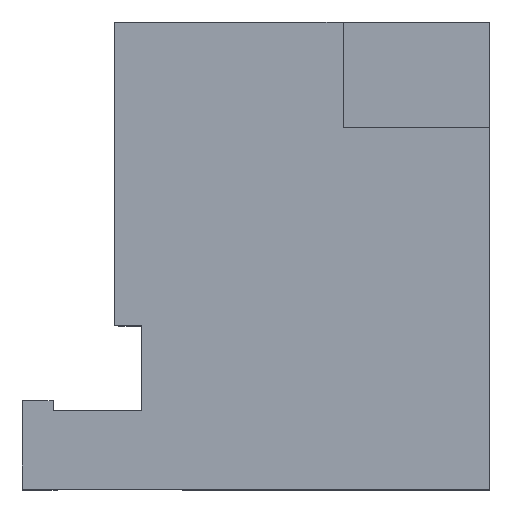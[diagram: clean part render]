
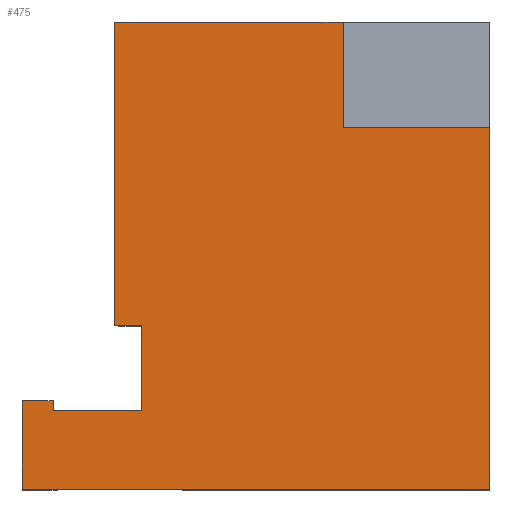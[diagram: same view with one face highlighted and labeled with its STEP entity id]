
A CAD part, top view. The second image highlights one B-rep face of the part: STEP entity #475.
In plain terms, the highlighted planar face has unit normal (0, 0, 1).
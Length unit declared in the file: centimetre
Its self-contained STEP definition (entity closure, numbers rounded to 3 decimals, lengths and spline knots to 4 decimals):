
#9 = ORIENTED_EDGE ( 'NONE', *, *, #1641, .T. ) ;
#27 = VECTOR ( 'NONE', #705, 100. ) ;
#33 = DIRECTION ( 'NONE',  ( 1., 0., 0. ) ) ;
#59 = VERTEX_POINT ( 'NONE', #737 ) ;
#81 = DIRECTION ( 'NONE',  ( 0., 1., 0. ) ) ;
#90 = LINE ( 'NONE', #1622, #600 ) ;
#100 = EDGE_LOOP ( 'NONE', ( #353, #1146, #536, #9, #845, #572, #1739, #1738, #1029, #378, #1291, #910 ) ) ;
#145 = DIRECTION ( 'NONE',  ( 1., 0., 0. ) ) ;
#156 = CARTESIAN_POINT ( 'NONE',  ( 65.692, 350.8139, 1000. ) ) ;
#164 = VECTOR ( 'NONE', #738, 100. ) ;
#177 = VECTOR ( 'NONE', #81, 100. ) ;
#222 = VECTOR ( 'NONE', #33, 100. ) ;
#232 = VERTEX_POINT ( 'NONE', #506 ) ;
#270 = CARTESIAN_POINT ( 'NONE',  ( 0., 189.8187, 1000. ) ) ;
#271 = DIRECTION ( 'NONE',  ( 0., -1., 0. ) ) ;
#283 = PLANE ( 'NONE',  #1194 ) ;
#291 = EDGE_CURVE ( 'NONE', #1599, #1083, #1060, .T. ) ;
#295 = LINE ( 'NONE', #270, #1732 ) ;
#304 = DIRECTION ( 'NONE',  ( 0., 0., 1. ) ) ;
#319 = VERTEX_POINT ( 'NONE', #1484 ) ;
#345 = CARTESIAN_POINT ( 'NONE',  ( 686.3472, 775.0145, 1000. ) ) ;
#353 = ORIENTED_EDGE ( 'NONE', *, *, #1537, .F. ) ;
#378 = ORIENTED_EDGE ( 'NONE', *, *, #739, .F. ) ;
#406 = EDGE_CURVE ( 'NONE', #1558, #520, #410, .T. ) ;
#410 = LINE ( 'NONE', #976, #456 ) ;
#413 = FACE_OUTER_BOUND ( 'NONE', #100, .T. ) ;
#452 = CARTESIAN_POINT ( 'NONE',  ( 65.692, 168.3622, 1000. ) ) ;
#456 = VECTOR ( 'NONE', #271, 100. ) ;
#466 = CARTESIAN_POINT ( 'NONE',  ( 1000., 0., 1000. ) ) ;
#475 = ADVANCED_FACE ( 'NONE', ( #413 ), #283, .T. ) ;
#506 = CARTESIAN_POINT ( 'NONE',  ( 255.0719, 350.8139, 1000. ) ) ;
#520 = VERTEX_POINT ( 'NONE', #1696 ) ;
#533 = DIRECTION ( 'NONE',  ( 0., 1., 0. ) ) ;
#534 = EDGE_CURVE ( 'NONE', #1086, #1783, #587, .T. ) ;
#536 = ORIENTED_EDGE ( 'NONE', *, *, #1450, .T. ) ;
#572 = ORIENTED_EDGE ( 'NONE', *, *, #1772, .F. ) ;
#576 = VECTOR ( 'NONE', #145, 100. ) ;
#579 = DIRECTION ( 'NONE',  ( 1., 0., 0. ) ) ;
#580 = VECTOR ( 'NONE', #1410, 100. ) ;
#587 = LINE ( 'NONE', #1246, #580 ) ;
#600 = VECTOR ( 'NONE', #1365, 100. ) ;
#683 = VERTEX_POINT ( 'NONE', #1093 ) ;
#685 = CARTESIAN_POINT ( 'NONE',  ( 686.3472, 775.0145, 1000. ) ) ;
#705 = DIRECTION ( 'NONE',  ( 1., 0., 0. ) ) ;
#711 = DIRECTION ( 'NONE',  ( 1., 0., 0. ) ) ;
#717 = LINE ( 'NONE', #1276, #222 ) ;
#737 = CARTESIAN_POINT ( 'NONE',  ( 196.535, 350.8139, 1000. ) ) ;
#738 = DIRECTION ( 'NONE',  ( 0., -1., 0. ) ) ;
#739 = EDGE_CURVE ( 'NONE', #1773, #683, #1545, .T. ) ;
#749 = CARTESIAN_POINT ( 'NONE',  ( 0., 189.8187, 1000. ) ) ;
#757 = LINE ( 'NONE', #345, #924 ) ;
#842 = EDGE_CURVE ( 'NONE', #520, #1543, #717, .T. ) ;
#845 = ORIENTED_EDGE ( 'NONE', *, *, #291, .T. ) ;
#849 = VECTOR ( 'NONE', #1042, 100. ) ;
#910 = ORIENTED_EDGE ( 'NONE', *, *, #534, .T. ) ;
#924 = VECTOR ( 'NONE', #1650, 100. ) ;
#952 = CARTESIAN_POINT ( 'NONE',  ( 65.692, 189.8187, 1000. ) ) ;
#976 = CARTESIAN_POINT ( 'NONE',  ( 0., 1000., 1000. ) ) ;
#1029 = ORIENTED_EDGE ( 'NONE', *, *, #1109, .T. ) ;
#1042 = DIRECTION ( 'NONE',  ( -1., 0., 0. ) ) ;
#1060 = LINE ( 'NONE', #1219, #1133 ) ;
#1077 = EDGE_CURVE ( 'NONE', #1086, #1773, #757, .T. ) ;
#1083 = VERTEX_POINT ( 'NONE', #952 ) ;
#1086 = VERTEX_POINT ( 'NONE', #1476 ) ;
#1093 = CARTESIAN_POINT ( 'NONE',  ( 1000., 775.0145, 1000. ) ) ;
#1109 = EDGE_CURVE ( 'NONE', #1543, #683, #90, .T. ) ;
#1133 = VECTOR ( 'NONE', #533, 100. ) ;
#1146 = ORIENTED_EDGE ( 'NONE', *, *, #1371, .T. ) ;
#1182 = LINE ( 'NONE', #1598, #177 ) ;
#1194 = AXIS2_PLACEMENT_3D ( 'NONE', #1561, #304, #579 ) ;
#1219 = CARTESIAN_POINT ( 'NONE',  ( 65.692, 168.3622, 1000. ) ) ;
#1246 = CARTESIAN_POINT ( 'NONE',  ( 0., 1000., 1000. ) ) ;
#1276 = CARTESIAN_POINT ( 'NONE',  ( 0., 0., 1000. ) ) ;
#1291 = ORIENTED_EDGE ( 'NONE', *, *, #1077, .F. ) ;
#1365 = DIRECTION ( 'NONE',  ( 0., 1., 0. ) ) ;
#1371 = EDGE_CURVE ( 'NONE', #59, #232, #1400, .T. ) ;
#1400 = LINE ( 'NONE', #156, #27 ) ;
#1410 = DIRECTION ( 'NONE',  ( -1., 0., 0. ) ) ;
#1427 = LINE ( 'NONE', #1587, #849 ) ;
#1450 = EDGE_CURVE ( 'NONE', #232, #319, #1577, .T. ) ;
#1476 = CARTESIAN_POINT ( 'NONE',  ( 686.3472, 1000., 1000. ) ) ;
#1484 = CARTESIAN_POINT ( 'NONE',  ( 255.0719, 168.3622, 1000. ) ) ;
#1537 = EDGE_CURVE ( 'NONE', #59, #1783, #1182, .T. ) ;
#1543 = VERTEX_POINT ( 'NONE', #466 ) ;
#1545 = LINE ( 'NONE', #1559, #576 ) ;
#1558 = VERTEX_POINT ( 'NONE', #749 ) ;
#1559 = CARTESIAN_POINT ( 'NONE',  ( 686.3472, 775.0145, 1000. ) ) ;
#1561 = CARTESIAN_POINT ( 'NONE',  ( 0., 0., 1000. ) ) ;
#1577 = LINE ( 'NONE', #1589, #164 ) ;
#1587 = CARTESIAN_POINT ( 'NONE',  ( 65.692, 168.3622, 1000. ) ) ;
#1589 = CARTESIAN_POINT ( 'NONE',  ( 255.0719, 168.3622, 1000. ) ) ;
#1598 = CARTESIAN_POINT ( 'NONE',  ( 196.535, 189.8187, 1000. ) ) ;
#1599 = VERTEX_POINT ( 'NONE', #452 ) ;
#1622 = CARTESIAN_POINT ( 'NONE',  ( 1000., 1000., 1000. ) ) ;
#1641 = EDGE_CURVE ( 'NONE', #319, #1599, #1427, .T. ) ;
#1650 = DIRECTION ( 'NONE',  ( 0., -1., 0. ) ) ;
#1693 = CARTESIAN_POINT ( 'NONE',  ( 196.535, 1000., 1000. ) ) ;
#1696 = CARTESIAN_POINT ( 'NONE',  ( 0., 0., 1000. ) ) ;
#1732 = VECTOR ( 'NONE', #711, 100. ) ;
#1738 = ORIENTED_EDGE ( 'NONE', *, *, #842, .T. ) ;
#1739 = ORIENTED_EDGE ( 'NONE', *, *, #406, .T. ) ;
#1772 = EDGE_CURVE ( 'NONE', #1558, #1083, #295, .T. ) ;
#1773 = VERTEX_POINT ( 'NONE', #685 ) ;
#1783 = VERTEX_POINT ( 'NONE', #1693 ) ;
